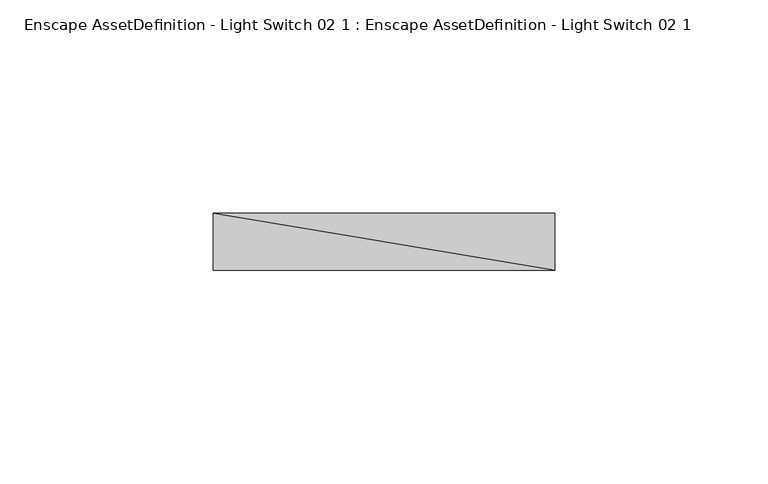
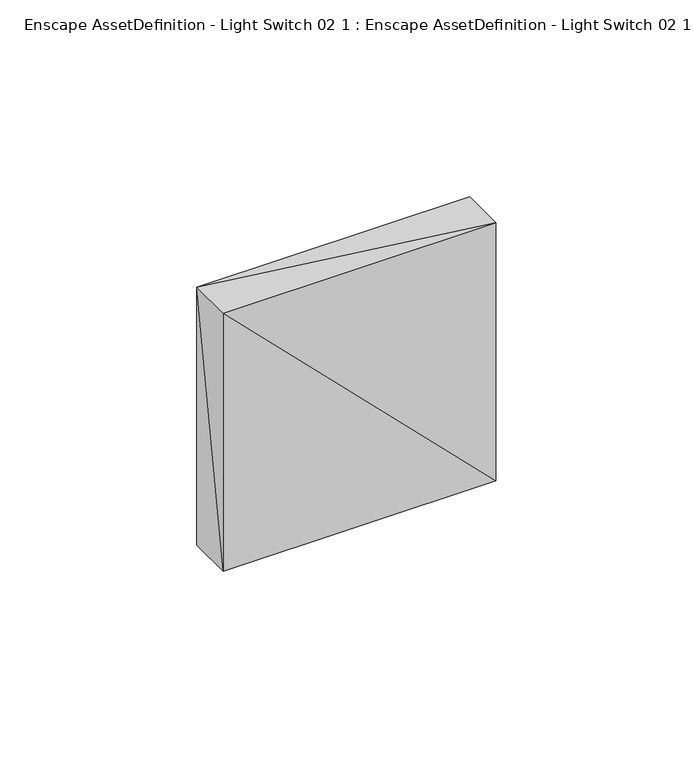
"""IFC4 building model written with IfcOpenShell, lengths in millimetres: geographic element geometry, Enscape AssetDefinition - Light Switch 02 1 : Enscape AssetDefinition - Light Switch 02 1."""

from ifc_helpers import new_model, si_unit, origin, place, context, project, spatial, faceted_brep, source, transform, mapped, element, save


def enscape_assetdefinition_light_switch_02_1_enscape_37d4c2cf(model_context):
    return source(origin(), model_context, "Body", "Brep", [
        faceted_brep([(-39.9999991, 0.0, 39.9999991), (-39.9999991, -13.3290002, 39.9999991), (39.9999991, -13.3290002, 39.9999991), (39.9999991, 0.0, 39.9999991), (-39.9999991, -13.3290002, -39.9999991), (-39.9999991, 0.0, -39.9999991), (39.9999991, -13.3290002, -39.9999991), (39.9999991, 0.0, -39.9999991)], [[[0, 1, 2]], [[0, 2, 3]], [[4, 1, 0]], [[4, 0, 5]], [[6, 2, 1]], [[6, 1, 4]], [[7, 3, 2]], [[7, 2, 6]], [[5, 0, 3]], [[5, 3, 7]], [[6, 4, 5]], [[7, 6, 5]]]),
    ])


if __name__ == "__main__":
    model = new_model("IFC4")
    model_context = context("Model", 3, world=origin())
    ifc_project = project(units=[si_unit("LENGTHUNIT", "METRE", prefix="MILLI")], contexts=[model_context])
    site = spatial("IfcSite", under=ifc_project)
    building = spatial("IfcBuilding", under=site)
    placement = place(None, origin())
    enscape_assetdefinition_light_switch_02_1_enscape_shape = enscape_assetdefinition_light_switch_02_1_enscape_37d4c2cf(model_context)
    element("IfcGeographicElement", 1, ObjectType="Enscape AssetDefinition - Light Switch 02 1 : Enscape AssetDefinition - Light Switch 02 1", at=placement, inside=building, context=model_context, shape_type="MappedRepresentation", body=[
        mapped(enscape_assetdefinition_light_switch_02_1_enscape_shape, transform((0.0, 0.0, 0.0), x_axis=(1.0, 0.0, 0.0), y_axis=(0.0, 1.0, 0.0), z_axis=(0.0, 0.0, 1.0))),
    ])
    save(model, "model.ifc")
